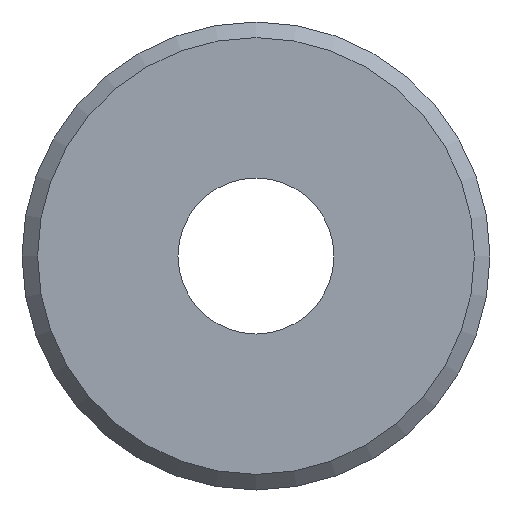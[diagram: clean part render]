
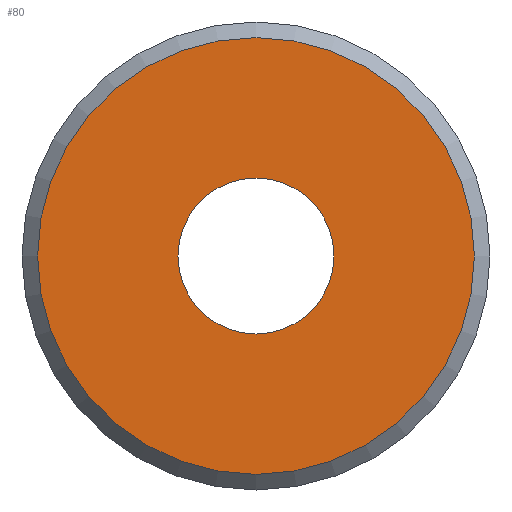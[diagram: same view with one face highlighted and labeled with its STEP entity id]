
A CAD part, front view. The second image highlights one B-rep face of the part: STEP entity #80.
In plain terms, the highlighted planar face has unit normal (0, -1, 0).
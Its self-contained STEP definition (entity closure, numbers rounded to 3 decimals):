
#16=PLANE('',#94);
#24=FACE_BOUND('',#42,.T.);
#30=FACE_OUTER_BOUND('',#41,.T.);
#41=EDGE_LOOP('',(#71));
#42=EDGE_LOOP('',(#72));
#43=CIRCLE('',#84,28.);
#48=CIRCLE('',#93,10.);
#49=VERTEX_POINT('',#123);
#54=VERTEX_POINT('',#137);
#55=EDGE_CURVE('',#49,#49,#43,.T.);
#60=EDGE_CURVE('',#54,#54,#48,.T.);
#71=ORIENTED_EDGE('',*,*,#55,.F.);
#72=ORIENTED_EDGE('',*,*,#60,.T.);
#80=ADVANCED_FACE('',(#30,#24),#16,.T.);
#84=AXIS2_PLACEMENT_3D('',#124,#99,#100);
#93=AXIS2_PLACEMENT_3D('',#138,#117,#118);
#94=AXIS2_PLACEMENT_3D('',#139,#119,#120);
#99=DIRECTION('center_axis',(0.,1.,0.));
#100=DIRECTION('ref_axis',(1.,0.,0.));
#117=DIRECTION('center_axis',(0.,1.,0.));
#118=DIRECTION('ref_axis',(1.,0.,0.));
#119=DIRECTION('center_axis',(0.,-1.,0.));
#120=DIRECTION('ref_axis',(0.,0.,-1.));
#123=CARTESIAN_POINT('',(-7.763,-6.823,0.));
#124=CARTESIAN_POINT('Origin',(20.237,-6.823,0.));
#137=CARTESIAN_POINT('',(10.237,-6.823,0.));
#138=CARTESIAN_POINT('Origin',(20.237,-6.823,0.));
#139=CARTESIAN_POINT('Origin',(-7.763,-6.823,0.));
